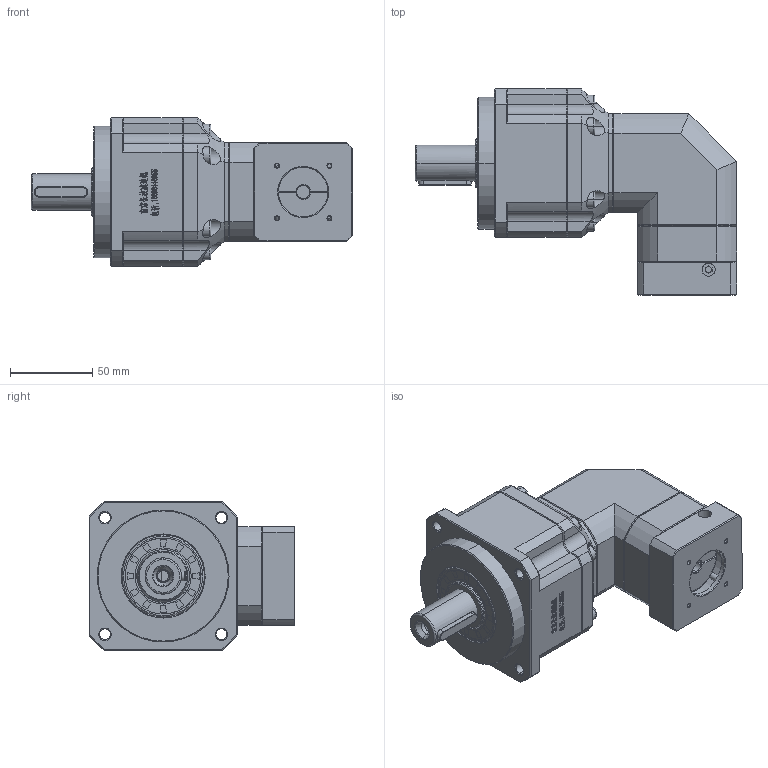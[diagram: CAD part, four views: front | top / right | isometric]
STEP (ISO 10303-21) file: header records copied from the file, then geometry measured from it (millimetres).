
FILE_DESCRIPTION (( 'STEP AP214' ), '1' );
FILE_NAME ('ZPBR090-D22-L2-P1-8-30-45-M3.step', '2024-06-07T18:37:05', ( 'Windows 蚚誧' ), ( 'Organization' ), 'SwSTEP 2.0', 'SolidWorks 2016', '' );
FILE_SCHEMA (( 'AUTOMOTIVE_DESIGN' ));
Length unit declared in the file: millimetre
Products named in the file (1): ZPBR090-D22-L2-P1-8-30-45-M3
Bounding box: 195 x 125 x 90 mm (x, y, z)
Surface area: 88602.3 mm2 (no closed solid volume)
Topology: 0 solids, 30 shells, 2030 faces, 5409 edges, 3463 vertices
Faces by surface type: plane 1087, bspline 371, cylinder 291, cone 254, torus 27
Entity records: 97849 total; most frequent: CARTESIAN_POINT 46458, ORIENTED_EDGE 10780, DIRECTION 8121, EDGE_CURVE 5409, VERTEX_POINT 3463, VECTOR 3389, LINE 3389, AXIS2_PLACEMENT_3D 2366
